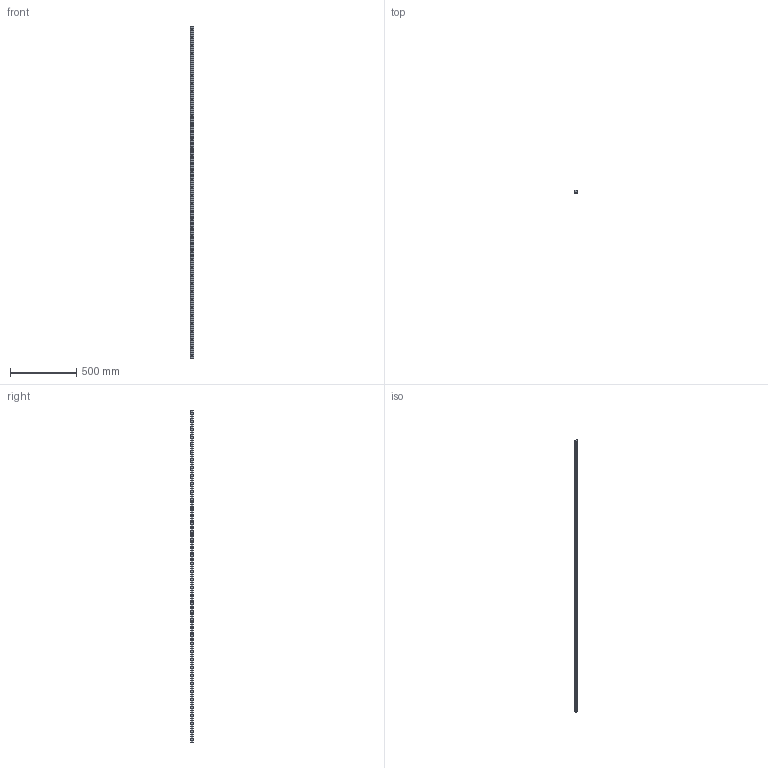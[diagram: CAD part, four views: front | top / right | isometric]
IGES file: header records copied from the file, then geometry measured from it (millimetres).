
Start section: SolidWorks IGES file using analytic representation for surfaces
Global section: file name: C:\Users\IanO\Desktop\L1016_v2\L1016.BL25_v2\L1016.BL25_v2_20160611_IGES\L1016.BL25-2500.igs; native system: SolidWorks 2017; preprocessor: SolidWorks 2017; author: IanO; date: 190612.131139; units: millimetre
Bounding box: 23 x 19.2 x 2500 mm (x, y, z)
Surface area: 236683.6 mm2 (no closed solid volume)
Topology: 0 solids, 0 shells, 236 faces, 6216 edges, 6216 vertices
Faces by surface type: revolution 172, bspline 64
